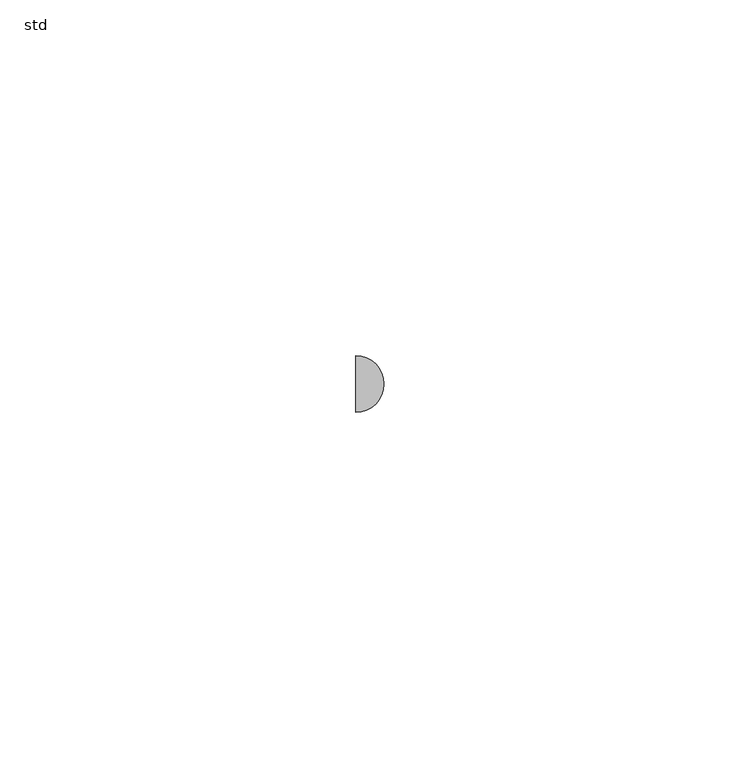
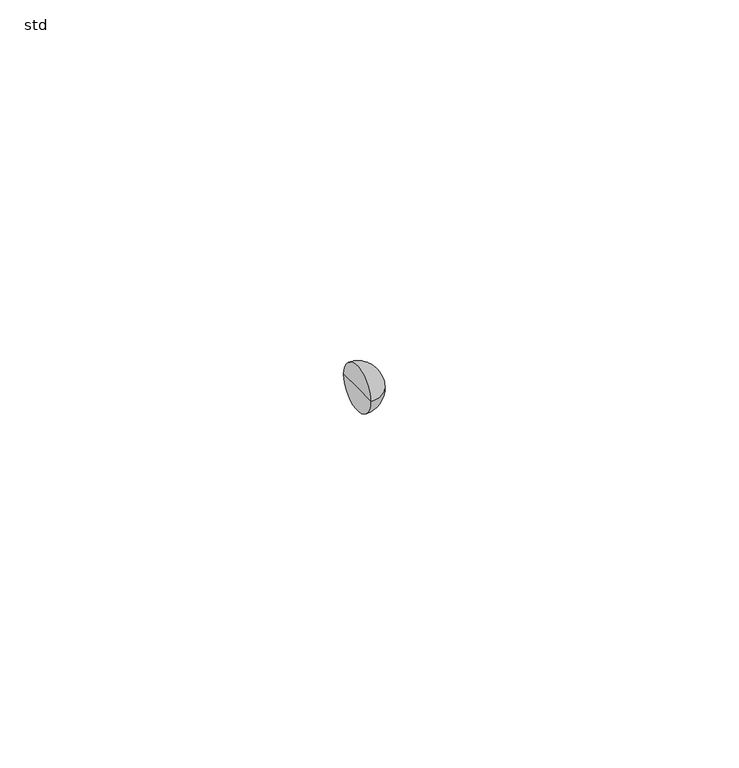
"""IFC4 building model written with IfcOpenShell, lengths in millimetres: pipe fitting geometry, PIF_ST_UN_GM-X double bend_ACO : std."""

from ifc_helpers import new_model, si_unit, point, frame, origin, place, context, project, spatial, circle_curve, ellipse_curve, trimmed, source, transform, mapped, element, save
from ifc_brep_helpers import plane_surface, revolved_surface, advanced_brep


def std_14a86d40(model_context):
    return source(origin(), model_context, "Body", "AdvancedBrep", [
        advanced_brep(
        [(-202.3357879, -4.0, 0.0), (-202.3357879, 4.0, 0.0), (-198.3357879, 0.0, 0.0), (-202.3357879, 0.0, 0.0)],
        [
            (0, 1, circle_curve(frame((-202.3357879, 0.0, 0.0), z_axis=(1.0, 0.0, 0.0), x_axis=(0.0, 1.0, 0.0)), 4.0)),
            (1, 2, circle_curve(frame((-202.3357879, 0.0, 0.0), z_axis=(0.0, 0.0, -1.0), x_axis=(-1.0, 0.0, 0.0)), 4.0)),
            (2, 0, circle_curve(frame((-202.3357879, 0.0, 0.0), z_axis=(0.0, 0.0, -1.0), x_axis=(-1.0, 0.0, 0.0)), 4.0)),
            (1, 0, circle_curve(frame((-202.3357879, 0.0, 0.0), z_axis=(1.0, 0.0, 0.0), x_axis=(0.0, 1.0, 0.0)), 4.0)),
            (3, 1),
            (0, 3),
        ],
        [
            revolved_surface(trimmed(ellipse_curve(frame((-202.3357879, 0.0, 0.0), z_axis=(0.0, 0.0, 1.0), x_axis=(-1.0, 0.0, 0.0)), 4.0, 4.0), [point((-198.3357879, 0.0, 0.0))], [point((-202.3357879, 4.0, 0.0))], True, "CARTESIAN"), (-209.3274652, 0.0, 0.0), (-1.0, 0.0, 0.0)),
            plane_surface(frame((-202.3357879, 0.0, 0.0), z_axis=(-1.0, 0.0, 0.0), x_axis=(0.0, 1.0, 0.0))),
        ],
        [
            (0, [[1, 2, 3]]),
            (0, [[4, -3, -2]]),
            (1, [[5, -1, 6]]),
            (1, [[-6, -4, -5]]),
        ],
    ),
    ])


if __name__ == "__main__":
    model = new_model("IFC4")
    model_context = context("Model", 3, world=origin())
    ifc_project = project(units=[si_unit("LENGTHUNIT", "METRE", prefix="MILLI")], contexts=[model_context])
    site = spatial("IfcSite", under=ifc_project)
    building = spatial("IfcBuilding", under=site)
    placement = place(None, origin())
    std_shape = std_14a86d40(model_context)
    element("IfcPipeFitting", 1, ObjectType="PIF_ST_UN_GM-X double bend_ACO : std", at=placement, inside=building, context=model_context, shape_type="MappedRepresentation", body=[
        mapped(std_shape, transform((0.0, 0.0, 0.0), x_axis=(1.0, 0.0, 0.0), y_axis=(0.0, 1.0, 0.0), z_axis=(0.0, 0.0, 1.0))),
    ])
    save(model, "model.ifc")
